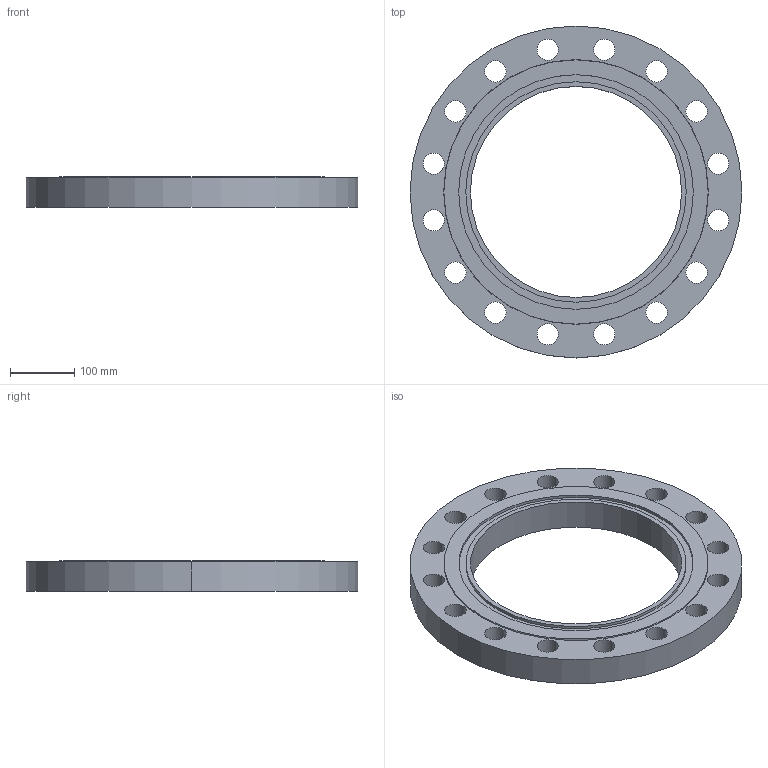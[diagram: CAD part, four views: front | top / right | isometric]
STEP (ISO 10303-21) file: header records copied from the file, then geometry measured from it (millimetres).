
FILE_DESCRIPTION (( 'STEP AP214' ), '1' );
FILE_NAME ('PN40 DN300 Type 01 - Type D Face.STEP', '2019-01-05T20:30:46', ( '' ), ( '' ), 'SwSTEP 2.0', 'SolidWorks 2019', '' );
FILE_SCHEMA (( 'AUTOMOTIVE_DESIGN' ));
Length unit declared in the file: millimetre
Products named in the file (1): PN40 DN300 Type 01 - Type D Face
Bounding box: 515 x 515 x 48 mm (x, y, z)
Volume: 5118778.1 mm3; surface area: 433024.7 mm2
Topology: 1 solids, 1 shells, 47 faces, 126 edges, 84 vertices
Faces by surface type: cylinder 40, plane 5, cone 2
Entity records: 1626 total; most frequent: DIRECTION 306, CARTESIAN_POINT 258, ORIENTED_EDGE 252, AXIS2_PLACEMENT_3D 132, EDGE_CURVE 126, EDGE_LOOP 84, VERTEX_POINT 84, CIRCLE 84
